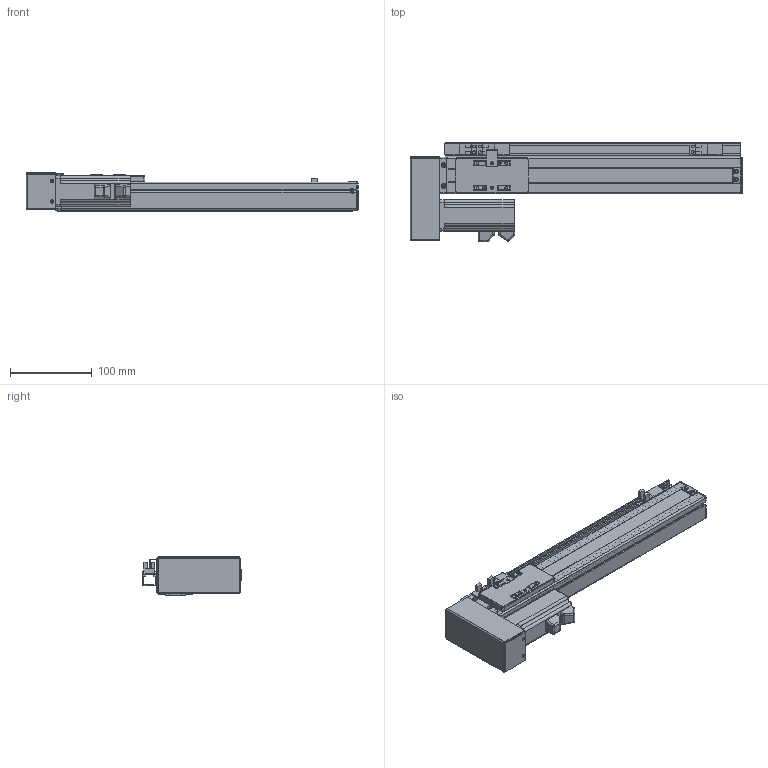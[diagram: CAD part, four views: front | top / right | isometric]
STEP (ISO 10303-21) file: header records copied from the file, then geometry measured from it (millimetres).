
FILE_DESCRIPTION (( 'STEP AP203' ), '1' );
FILE_NAME ('VT4-S240-BL.STEP', '2016-06-17T09:19:45', ( '' ), ( '' ), 'SwSTEP 2.0', 'SolidWorks 2013', '' );
FILE_SCHEMA (( 'CONFIG_CONTROL_DESIGN' ));
Length unit declared in the file: millimetre
Products named in the file (17): T4-BLR 萇儂欶; T4-賑雄殤; T4-BLR 100w萇儂假蚾啣_A6061; T4-裔啣; T6-癹弇羲壽羞_俴最240; T4-揤輸; EE-SX674-WR; SFKR0802佪裝TBI_俴最240; T4-覜茼え; MGW12C-絳寢_俴最240; 侂狟100W MSMD012G1U; T4-BLRM 粣創釱; VT4-S240-BL; T4-BLRM ヶ傷揤輸_A6061; T4-綴傷裔; 詩湍; T4-耜啣羲耀芞2_俴最240
Assembly tree (19 placements, depth 2):
  VT4-S240-BL
    T4-綴傷裔
    T4-耜啣羲耀芞2_俴最240  x2
    T4-賑雄殤
    T4-裔啣
    T4-揤輸
    SFKR0802佪裝TBI_俴最240
    MGW12C-絳寢_俴最240
    T4-BLRM 粣創釱
    T4-BLRM ヶ傷揤輸_A6061
    詩湍
    T4-BLR 萇儂欶
    T4-BLR 100w萇儂假蚾啣_A6061
    T6-癹弇羲壽羞_俴最240
    EE-SX674-WR  x3
    T4-覜茼え
    侂狟100W MSMD012G1U
Bounding box: 405 x 121.25 x 47.25 mm (x, y, z)
Volume: 423043 mm3; surface area: 301082.3 mm2
Topology: 22 solids, 22 shells, 1227 faces, 3278 edges, 2073 vertices
Faces by surface type: plane 564, cylinder 548, cone 57, torus 30, sphere 20, bspline 8
Entity records: 34587 total; most frequent: CARTESIAN_POINT 6586, DIRECTION 5612, ORIENTED_EDGE 5332, EDGE_CURVE 2666, AXIS2_PLACEMENT_3D 2011, VERTEX_POINT 1707, LINE 1590, VECTOR 1590
